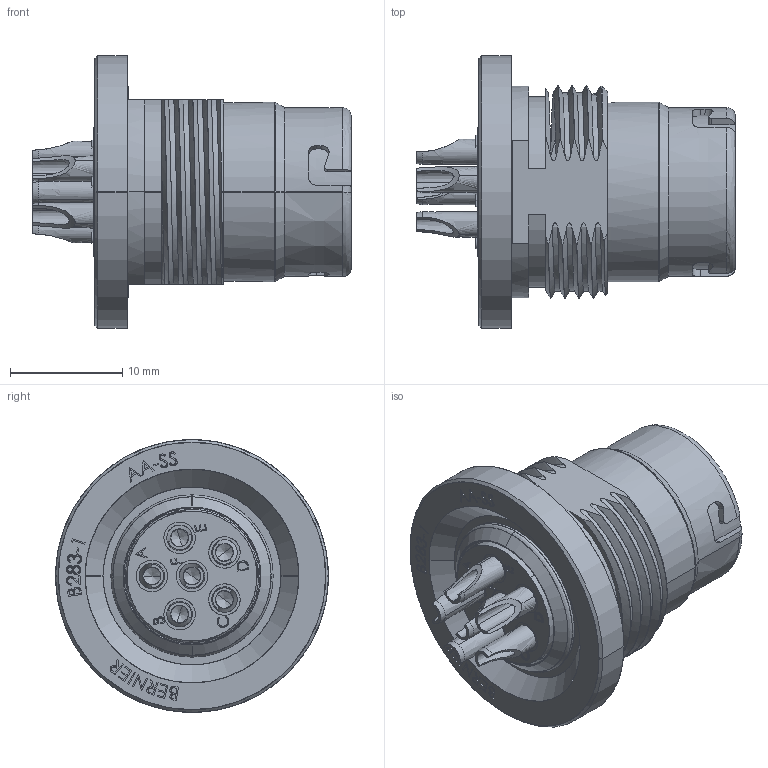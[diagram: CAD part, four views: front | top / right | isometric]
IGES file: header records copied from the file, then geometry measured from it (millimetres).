
Start section: SolidWorks IGES file using analytic representation for surfaces
Global section: file name: C:\Users\JGC\Desktop\B283-1.IGS; native system: SolidWorks 2014; preprocessor: SolidWorks 2014; author: jgc; date: 160622.110317; units: millimetre
Bounding box: 28.45 x 24.36 x 24.36 mm (x, y, z)
Surface area: 3102.7 mm2 (no closed solid volume)
Topology: 0 solids, 0 shells, 704 faces, 8508 edges, 8380 vertices
Faces by surface type: bspline 531, revolution 173
